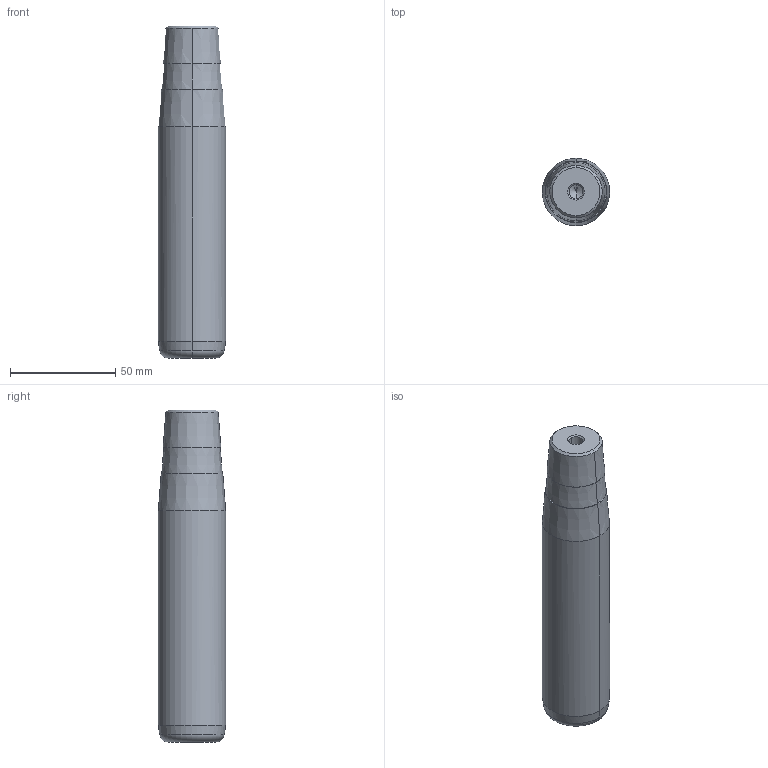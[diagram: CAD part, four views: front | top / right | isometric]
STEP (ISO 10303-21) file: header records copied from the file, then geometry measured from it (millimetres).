
FILE_DESCRIPTION(('CATIA V5 STEP Exchange'),'2;1');
FILE_NAME('C:\Users\Utente\Desktop\IO LAVORO\3D X SITO CF\X SITO\722\722-32x125x158.stp','2021-01-08T16:13:22+00:00',('none'),('none'),'CATIA Version 5 Release 20 GA (IN-10)','CATIA V5 STEP AP203','none');
FILE_SCHEMA(('CONFIG_CONTROL_DESIGN'));
Length unit declared in the file: millimetre
Products named in the file (1): 722-32x125x158
Bounding box: 32 x 32 x 158 mm (x, y, z)
Volume: 116160.1 mm3; surface area: 17458.6 mm2
Topology: 1 solids, 1 shells, 32 faces, 98 edges, 66 vertices
Faces by surface type: cone 22, cylinder 6, plane 2, torus 2
Entity records: 1166 total; most frequent: CARTESIAN_POINT 279, ORIENTED_EDGE 188, DIRECTION 148, EDGE_CURVE 94, AXIS2_PLACEMENT_3D 89, VERTEX_POINT 66, CIRCLE 56, EDGE_LOOP 34
